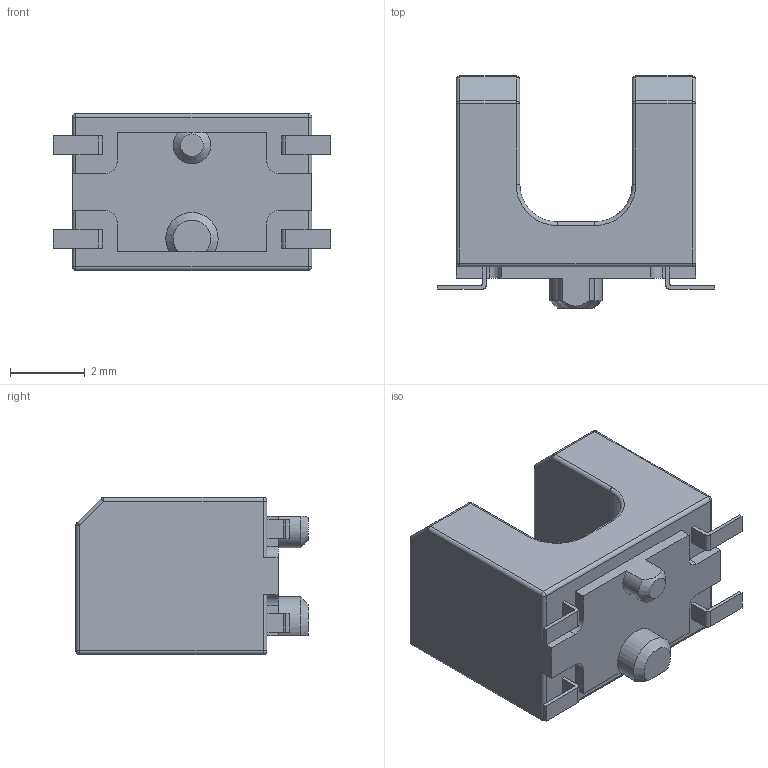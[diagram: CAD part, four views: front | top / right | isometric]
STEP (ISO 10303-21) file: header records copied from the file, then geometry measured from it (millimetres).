
FILE_DESCRIPTION(/* description */ ('Unknown'),/* implementation_level */ '2;1');
FILE_NAME(/* name */ 'RPI-0352E',/* time_stamp */ '2023-07-13T14:10:58+02:00',/* author */ ('Unknown'),/* organization */ ('Unknown'),/* preprocessor_version */ 'ST-DEVELOPER v18.102',/* originating_system */ 'Solid Edge',/* authorisation */ 'Unknown');
FILE_SCHEMA (('AUTOMOTIVE_DESIGN {1 0 10303 214 3 1 1}'));
Length unit declared in the file: millimetre
Products named in the file (1): RPI-0352E
Bounding box: 7.4 x 6.2 x 4.2 mm (x, y, z)
Volume: 95.2 mm3; surface area: 181.8 mm2
Topology: 1 solids, 1 shells, 122 faces, 304 edges, 176 vertices
Faces by surface type: plane 54, cylinder 46, sphere 16, torus 4, cone 2
Entity records: 4354 total; most frequent: DIRECTION 631, CARTESIAN_POINT 598, ORIENTED_EDGE 580, EDGE_CURVE 290, AXIS2_PLACEMENT_3D 221, LINE 189, VECTOR 189, VERTEX_POINT 175
